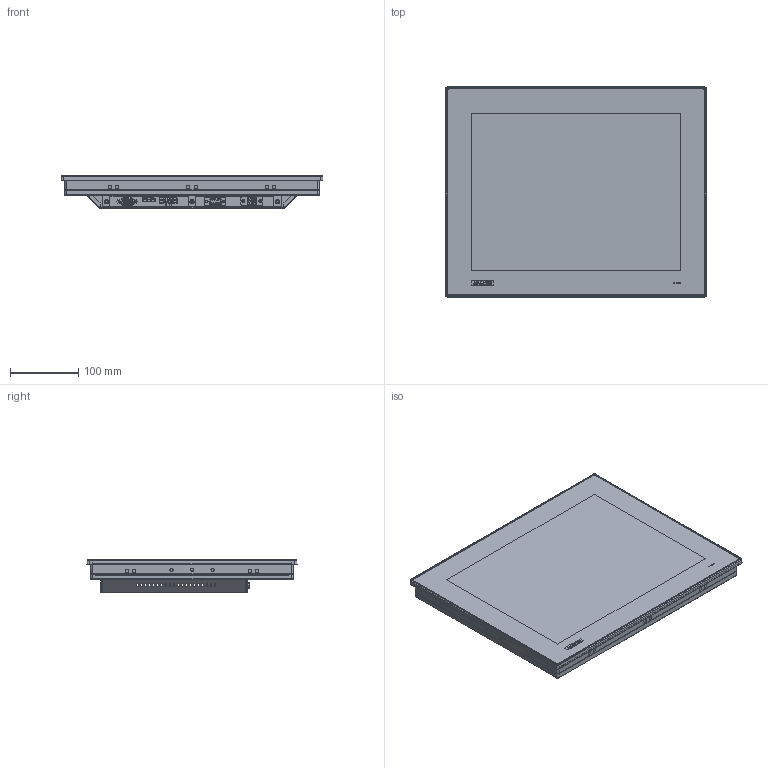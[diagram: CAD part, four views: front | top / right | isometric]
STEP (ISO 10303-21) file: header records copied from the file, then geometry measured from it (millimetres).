
FILE_DESCRIPTION (( 'STEP AP203' ), '1' );
FILE_NAME ('FPM-7151T.STEP', '2016-03-22T05:30:39', ( '' ), ( '' ), 'SwSTEP 2.0', 'SolidWorks 2013', '' );
FILE_SCHEMA (( 'CONFIG_CONTROL_DESIGN' ));
Products named in the file (1): FPM-7151T
Bounding box: 383.2 x 307.3 x 48.2 mm (x, y, z)
Volume: 2480963.3 mm3; surface area: 834192.8 mm2
Topology: 17 solids, 17 shells, 3703 faces, 9879 edges, 6479 vertices
Faces by surface type: plane 2634, cylinder 593, bspline 299, torus 85, cone 72, sphere 20
Entity records: 131561 total; most frequent: CARTESIAN_POINT 40180, ORIENTED_EDGE 19734, DIRECTION 16992, EDGE_CURVE 9867, VECTOR 7670, LINE 7670, VERTEX_POINT 6479, AXIS2_PLACEMENT_3D 4661
